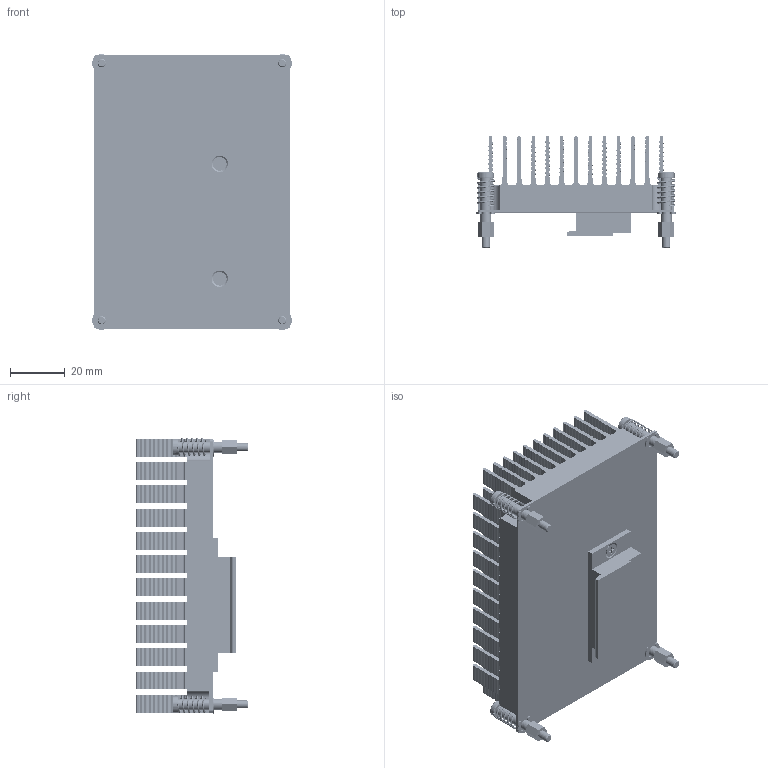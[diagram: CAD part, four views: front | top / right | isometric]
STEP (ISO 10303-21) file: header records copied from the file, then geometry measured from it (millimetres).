
FILE_DESCRIPTION((''),'2;1');
FILE_NAME('EPX-EHLP_HEATSINK_ASM','2022-09-01T13:48:44',('jamie_liao'),(''),'CREO PARAMETRIC BY PTC INC, 2017110','CREO PARAMETRIC BY PTC INC, 2017110','');
FILE_SCHEMA(('CONFIG_CONTROL_DESIGN','GEOMETRIC_VALIDATION_PROPERTIES_MIM'));
Products named in the file (10): E1901E05A_HEATSINK_95X28-1; SCREW-M3_2; SPRING-M3_2; E-RING-M3_2; SPRING-SCREW_M3_ASM_2_ASM; SPRING-SCREW_M3_ASM_ASM; E193A230900R; AL_W_22; E1931030503R; EPX-EHLP_HEATSINK_ASM
Assembly tree (16 placements, depth 4):
  EPX-EHLP_HEATSINK_ASM
    E1901E05A_HEATSINK_95X28-1
    SPRING-SCREW_M3_ASM_ASM  x4
      SPRING-SCREW_M3_ASM_2_ASM
        SCREW-M3_2
        SPRING-M3_2
        E-RING-M3_2
    E193A230900R  x4
    AL_W_22
    E1931030503R  x2
Bounding box: 73 x 40.9 x 100.82 mm (x, y, z)
Volume: 102934.9 mm3; surface area: 68316.8 mm2
Topology: 20 solids, 20 shells, 13057 faces, 38951 edges, 25966 vertices
Faces by surface type: plane 6656, cylinder 6333, bspline 32, cone 20, torus 16
Entity records: 436206 total; most frequent: CARTESIAN_POINT 79755, ORIENTED_EDGE 76078, DIRECTION 75749, EDGE_CURVE 38039, VECTOR 25649, LINE 25649, VERTEX_POINT 25359, AXIS2_PLACEMENT_3D 25050
